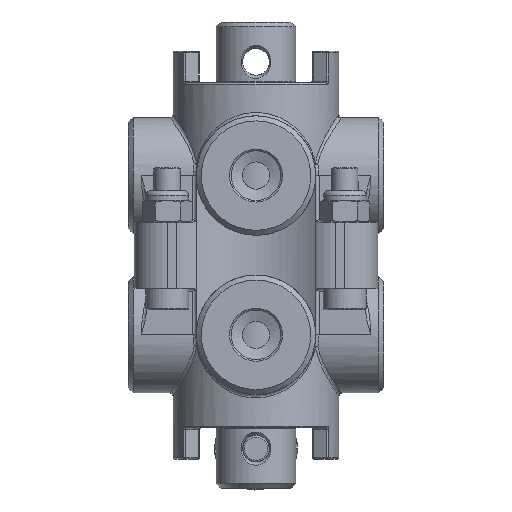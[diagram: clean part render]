
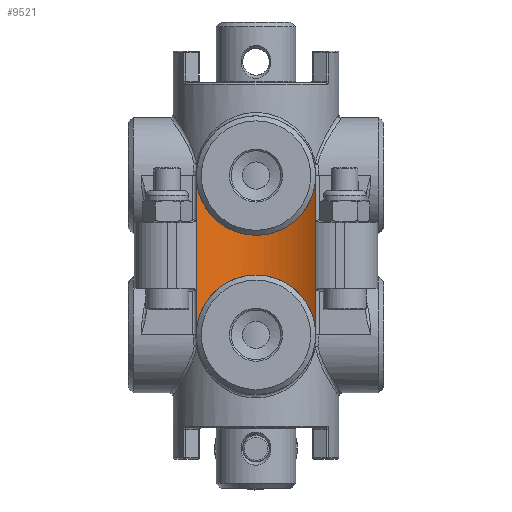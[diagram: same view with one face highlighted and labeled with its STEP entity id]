
A CAD part, front view. The second image highlights one B-rep face of the part: STEP entity #9521.
In plain terms, the highlighted cylindrical face has radius 30 mm (diameter 60 mm), a partial arc.
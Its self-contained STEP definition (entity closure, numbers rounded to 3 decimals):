
#304=LINE('',#15169,#618);
#306=LINE('',#15184,#620);
#618=VECTOR('',#11926,1000.);
#620=VECTOR('',#11930,1000.);
#783=B_SPLINE_CURVE_WITH_KNOTS('',3,(#13747,#13748,#13749,#13750),
 .UNSPECIFIED.,.F.,.F.,(4,4),(0.001,0.001),
 .UNSPECIFIED.);
#785=B_SPLINE_CURVE_WITH_KNOTS('',3,(#13757,#13758,#13759,#13760,#13761,
#13762,#13763,#13764,#13765,#13766,#13767,#13768,#13769,#13770,#13771,#13772,
#13773,#13774),.UNSPECIFIED.,.F.,.F.,(4,1,1,1,1,1,1,1,1,1,1,1,1,1,1,4),
(0.001,0.004,0.008,0.011,
0.015,0.018,0.022,0.025,
0.029,0.031,0.032,0.036,
0.043,0.046,0.05,0.057),
 .UNSPECIFIED.);
#786=B_SPLINE_CURVE_WITH_KNOTS('',3,(#13776,#13777,#13778,#13779),
 .UNSPECIFIED.,.F.,.F.,(4,4),(0.057,0.057),
 .UNSPECIFIED.);
#835=B_SPLINE_CURVE_WITH_KNOTS('',3,(#15186,#15187,#15188,#15189),
 .UNSPECIFIED.,.F.,.F.,(4,4),(0.057,0.057),
 .UNSPECIFIED.);
#836=B_SPLINE_CURVE_WITH_KNOTS('',3,(#15191,#15192,#15193,#15194,#15195,
#15196,#15197,#15198,#15199,#15200,#15201,#15202,#15203,#15204,#15205,#15206,
#15207,#15208),.UNSPECIFIED.,.F.,.F.,(4,1,1,1,1,1,1,1,1,1,1,1,1,1,1,4),
(0.001,0.004,0.008,0.011,
0.015,0.018,0.022,0.025,
0.029,0.031,0.032,0.036,
0.043,0.046,0.05,0.057),
 .UNSPECIFIED.);
#837=B_SPLINE_CURVE_WITH_KNOTS('',3,(#15210,#15211,#15212,#15213),
 .UNSPECIFIED.,.F.,.F.,(4,4),(0.001,0.001),
 .UNSPECIFIED.);
#1041=CYLINDRICAL_SURFACE('',#10271,30.);
#2414=ORIENTED_EDGE('',*,*,#3658,.T.);
#2415=ORIENTED_EDGE('',*,*,#3268,.F.);
#2416=ORIENTED_EDGE('',*,*,#3267,.F.);
#2417=ORIENTED_EDGE('',*,*,#3265,.F.);
#2418=ORIENTED_EDGE('',*,*,#3662,.T.);
#2419=ORIENTED_EDGE('',*,*,#3663,.F.);
#2420=ORIENTED_EDGE('',*,*,#3664,.F.);
#2421=ORIENTED_EDGE('',*,*,#3665,.F.);
#3265=EDGE_CURVE('',#4107,#4083,#783,.T.);
#3267=EDGE_CURVE('',#4083,#4084,#785,.T.);
#3268=EDGE_CURVE('',#4084,#4108,#786,.T.);
#3658=EDGE_CURVE('',#4376,#4108,#304,.T.);
#3662=EDGE_CURVE('',#4107,#4379,#306,.F.);
#3663=EDGE_CURVE('',#4380,#4379,#835,.T.);
#3664=EDGE_CURVE('',#4381,#4380,#836,.T.);
#3665=EDGE_CURVE('',#4376,#4381,#837,.T.);
#4083=VERTEX_POINT('',#13503);
#4084=VERTEX_POINT('',#13505);
#4107=VERTEX_POINT('',#13751);
#4108=VERTEX_POINT('',#13780);
#4376=VERTEX_POINT('',#15170);
#4379=VERTEX_POINT('',#15185);
#4380=VERTEX_POINT('',#15190);
#4381=VERTEX_POINT('',#15209);
#5427=EDGE_LOOP('',(#2414,#2415,#2416,#2417,#2418,#2419,#2420,#2421));
#6079=FACE_BOUND('',#5427,.T.);
#9521=ADVANCED_FACE('',(#6079),#1041,.F.);
#10271=AXIS2_PLACEMENT_3D('',#15183,#11928,#11929);
#11926=DIRECTION('',(0.,0.,-1.));
#11928=DIRECTION('',(0.,0.,-1.));
#11929=DIRECTION('',(-1.,0.,0.));
#11930=DIRECTION('',(0.,0.,-1.));
#13503=CARTESIAN_POINT('',(17.983,-37.,-21.216));
#13505=CARTESIAN_POINT('',(-17.983,-37.,-21.216));
#13747=CARTESIAN_POINT('',(17.987,-37.003,-21.321));
#13748=CARTESIAN_POINT('',(17.986,-37.002,-21.286));
#13749=CARTESIAN_POINT('',(17.984,-37.001,-21.251));
#13750=CARTESIAN_POINT('',(17.983,-37.,-21.216));
#13751=CARTESIAN_POINT('',(17.987,-37.003,-21.321));
#13757=CARTESIAN_POINT('',(17.983,-37.,-21.216));
#13758=CARTESIAN_POINT('',(17.931,-36.962,-20.037));
#13759=CARTESIAN_POINT('',(17.601,-36.712,-17.728));
#13760=CARTESIAN_POINT('',(16.456,-35.909,-14.44));
#13761=CARTESIAN_POINT('',(14.749,-34.857,-11.503));
#13762=CARTESIAN_POINT('',(12.569,-33.728,-8.968));
#13763=CARTESIAN_POINT('',(9.906,-32.643,-6.845));
#13764=CARTESIAN_POINT('',(6.915,-31.759,-5.262));
#13765=CARTESIAN_POINT('',(3.53,-31.154,-4.233));
#13766=CARTESIAN_POINT('',(0.633,-30.978,-3.943));
#13767=CARTESIAN_POINT('',(-1.752,-31.047,-4.056));
#13768=CARTESIAN_POINT('',(-4.061,-31.25,-4.396));
#13769=CARTESIAN_POINT('',(-8.003,-31.948,-5.584));
#13770=CARTESIAN_POINT('',(-11.826,-33.345,-8.108));
#13771=CARTESIAN_POINT('',(-14.759,-34.862,-11.516));
#13772=CARTESIAN_POINT('',(-17.014,-36.255,-15.401));
#13773=CARTESIAN_POINT('',(-17.88,-36.923,-18.853));
#13774=CARTESIAN_POINT('',(-17.983,-37.,-21.216));
#13776=CARTESIAN_POINT('',(-17.983,-37.,-21.216));
#13777=CARTESIAN_POINT('',(-17.984,-37.001,-21.251));
#13778=CARTESIAN_POINT('',(-17.986,-37.002,-21.286));
#13779=CARTESIAN_POINT('',(-17.987,-37.003,-21.321));
#13780=CARTESIAN_POINT('',(-17.987,-37.003,-21.321));
#15169=CARTESIAN_POINT('',(-17.987,-37.003,12.));
#15170=CARTESIAN_POINT('',(-17.987,-37.003,25.321));
#15183=CARTESIAN_POINT('',(0.,-61.013,12.));
#15184=CARTESIAN_POINT('',(17.987,-37.003,12.));
#15185=CARTESIAN_POINT('',(17.987,-37.003,25.321));
#15186=CARTESIAN_POINT('',(17.983,-37.,25.216));
#15187=CARTESIAN_POINT('',(17.984,-37.001,25.251));
#15188=CARTESIAN_POINT('',(17.986,-37.002,25.286));
#15189=CARTESIAN_POINT('',(17.987,-37.003,25.321));
#15190=CARTESIAN_POINT('',(17.983,-37.,25.216));
#15191=CARTESIAN_POINT('',(-17.983,-37.,25.216));
#15192=CARTESIAN_POINT('',(-17.931,-36.962,24.037));
#15193=CARTESIAN_POINT('',(-17.601,-36.712,21.728));
#15194=CARTESIAN_POINT('',(-16.456,-35.909,18.44));
#15195=CARTESIAN_POINT('',(-14.749,-34.857,15.503));
#15196=CARTESIAN_POINT('',(-12.569,-33.728,12.968));
#15197=CARTESIAN_POINT('',(-9.906,-32.643,10.845));
#15198=CARTESIAN_POINT('',(-6.915,-31.759,9.262));
#15199=CARTESIAN_POINT('',(-3.53,-31.154,8.233));
#15200=CARTESIAN_POINT('',(-0.633,-30.978,7.943));
#15201=CARTESIAN_POINT('',(1.752,-31.047,8.056));
#15202=CARTESIAN_POINT('',(4.061,-31.25,8.396));
#15203=CARTESIAN_POINT('',(8.003,-31.948,9.584));
#15204=CARTESIAN_POINT('',(11.826,-33.345,12.108));
#15205=CARTESIAN_POINT('',(14.759,-34.862,15.516));
#15206=CARTESIAN_POINT('',(17.014,-36.255,19.401));
#15207=CARTESIAN_POINT('',(17.88,-36.923,22.853));
#15208=CARTESIAN_POINT('',(17.983,-37.,25.216));
#15209=CARTESIAN_POINT('',(-17.983,-37.,25.216));
#15210=CARTESIAN_POINT('',(-17.987,-37.003,25.321));
#15211=CARTESIAN_POINT('',(-17.986,-37.002,25.286));
#15212=CARTESIAN_POINT('',(-17.984,-37.001,25.251));
#15213=CARTESIAN_POINT('',(-17.983,-37.,25.216));
